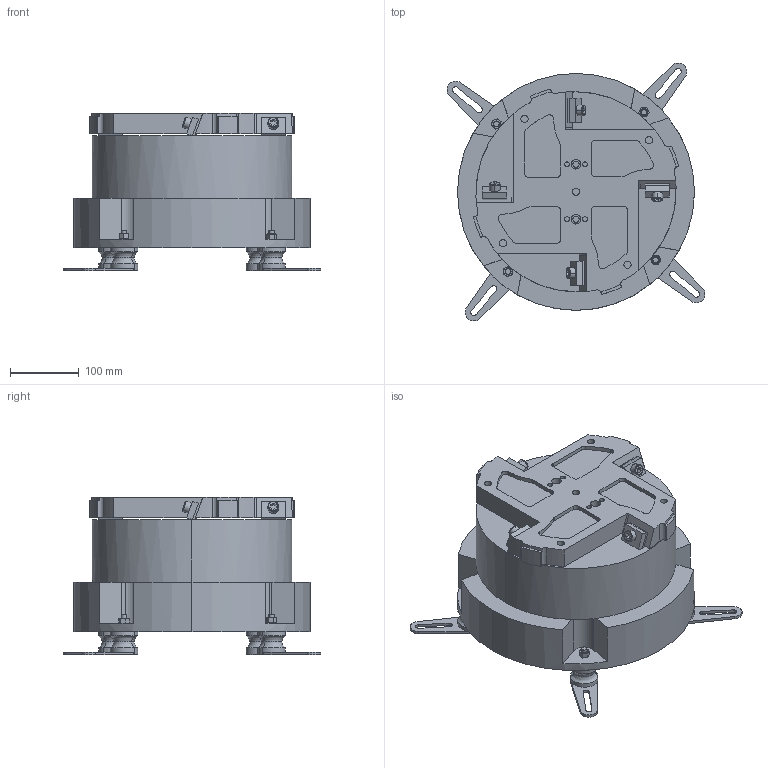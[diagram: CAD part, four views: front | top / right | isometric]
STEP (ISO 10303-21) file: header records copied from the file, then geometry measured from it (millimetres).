
FILE_DESCRIPTION(/* description */ (''),/* implementation_level */ '2;1');
FILE_NAME(/* name */ 'DF300.stp',/* time_stamp */ '2022-04-15T10:53:59+08:00',/* author */ (''),/* organization */ (''),/* preprocessor_version */ 'ST-DEVELOPER v18.102',/* originating_system */ 'SIEMENS PLM Software NX 2019',/* authorisation */ '');
FILE_SCHEMA (('AUTOMOTIVE_DESIGN { 1 0 10303 214 3 1 1 1 }'));
Length unit declared in the file: millimetre
Products named in the file (1): DF300_stp
Bounding box: 375.61 x 375.61 x 230 mm (x, y, z)
Volume: 13320453.2 mm3; surface area: 606537.2 mm2
Topology: 22 solids, 26 shells, 514 faces, 1244 edges, 794 vertices
Faces by surface type: plane 228, cylinder 202, cone 60, torus 24
Entity records: 15836 total; most frequent: CARTESIAN_POINT 3147, DIRECTION 2664, ORIENTED_EDGE 2472, EDGE_CURVE 1236, AXIS2_PLACEMENT_3D 1023, VERTEX_POINT 794, LINE 618, VECTOR 618
